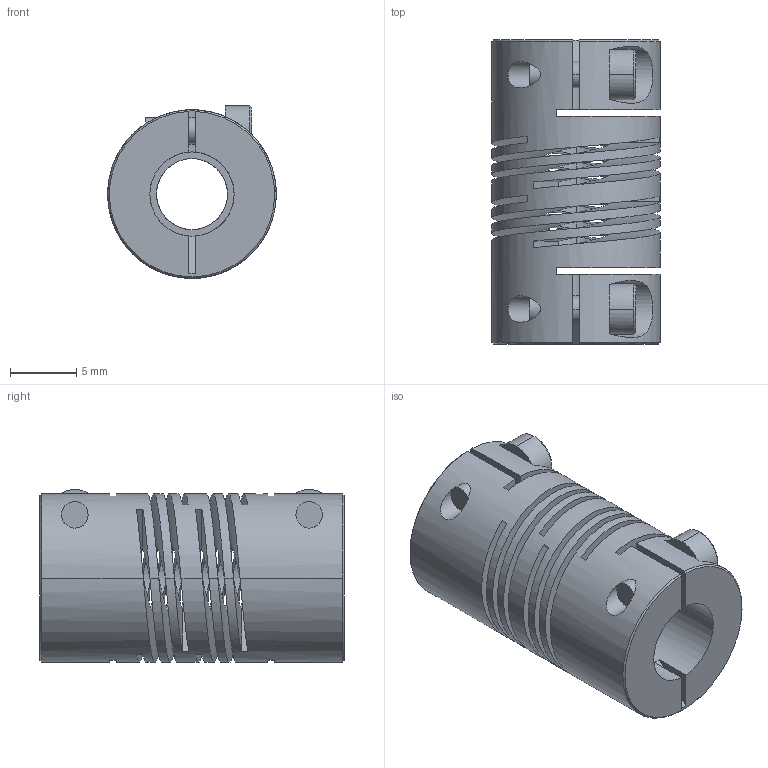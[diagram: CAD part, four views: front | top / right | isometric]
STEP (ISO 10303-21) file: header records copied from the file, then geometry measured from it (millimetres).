
FILE_DESCRIPTION((''),'2;1');
FILE_NAME('707_13','2006-12-06T',('Gary Melling'),(''),'PRO/ENGINEER BY PARAMETRIC TECHNOLOGY CORPORATION, 2006240','PRO/ENGINEER BY PARAMETRIC TECHNOLOGY CORPORATION, 2006240','');
FILE_SCHEMA(('CONFIG_CONTROL_DESIGN'));
Length unit declared in the file: millimetre
Products named in the file (1): 707_13
Bounding box: 12.7 x 22.9 x 13.01 mm (x, y, z)
Volume: 1875.6 mm3; surface area: 2997.7 mm2
Topology: 1 solids, 1 shells, 110 faces, 326 edges, 212 vertices
Faces by surface type: plane 58, cylinder 34, bspline 12, cone 6
Entity records: 5543 total; most frequent: CARTESIAN_POINT 2665, ORIENTED_EDGE 652, DIRECTION 508, EDGE_CURVE 326, VERTEX_POINT 212, VECTOR 180, LINE 180, AXIS2_PLACEMENT_3D 164
